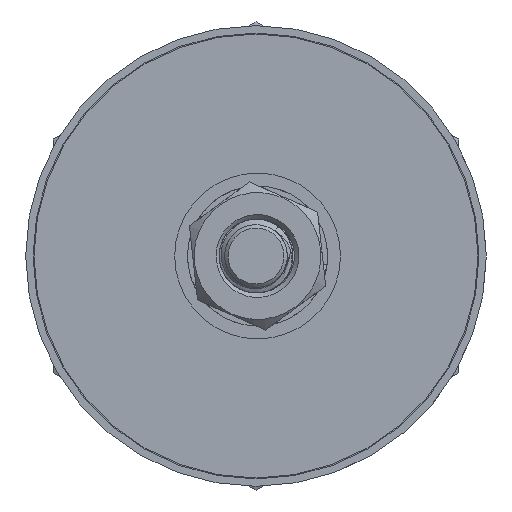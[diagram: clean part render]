
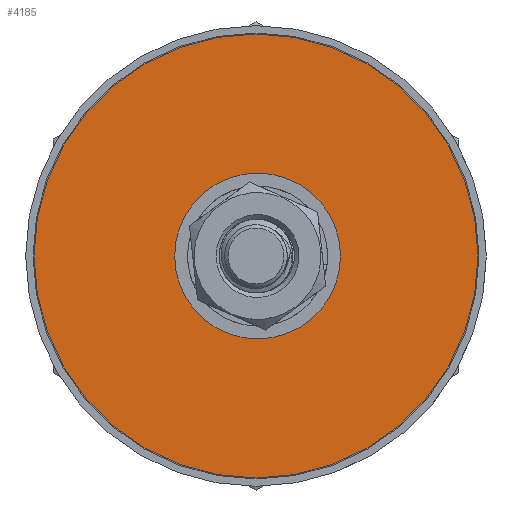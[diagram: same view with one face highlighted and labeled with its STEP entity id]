
A CAD part, front view. The second image highlights one B-rep face of the part: STEP entity #4185.
In plain terms, the highlighted planar face has unit normal (0, -1, 0).
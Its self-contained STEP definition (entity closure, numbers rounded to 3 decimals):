
#168=B_SPLINE_CURVE_WITH_KNOTS('',3,(#6592,#6593,#6594,#6595,#6596,#6597,
#6598),.UNSPECIFIED.,.F.,.F.,(4,3,4),(-0.289,-0.099,
0.),.UNSPECIFIED.);
#195=B_SPLINE_CURVE_WITH_KNOTS('',3,(#8535,#8536,#8537,#8538,#8539,#8540,
#8541),.UNSPECIFIED.,.F.,.F.,(4,3,4),(-0.29,-0.11,
0.),.UNSPECIFIED.);
#502=FACE_BOUND('',#1021,.T.);
#727=FACE_OUTER_BOUND('',#1020,.T.);
#1020=EDGE_LOOP('',(#3148));
#1021=EDGE_LOOP('',(#3149,#3150,#3151,#3152));
#1472=CIRCLE('',#4365,2.);
#1523=CIRCLE('',#4506,12.05);
#1525=CIRCLE('',#4509,1.7);
#1617=VERTEX_POINT('',#6549);
#1618=VERTEX_POINT('',#6591);
#1645=VERTEX_POINT('',#8396);
#1646=VERTEX_POINT('',#8534);
#1782=VERTEX_POINT('',#10187);
#2046=EDGE_CURVE('',#1617,#1618,#168,.T.);
#2075=EDGE_CURVE('',#1645,#1646,#195,.T.);
#2080=EDGE_CURVE('',#1646,#1617,#1472,.T.);
#2274=EDGE_CURVE('',#1782,#1782,#1523,.T.);
#2276=EDGE_CURVE('',#1618,#1645,#1525,.T.);
#3148=ORIENTED_EDGE('',*,*,#2274,.T.);
#3149=ORIENTED_EDGE('',*,*,#2080,.F.);
#3150=ORIENTED_EDGE('',*,*,#2075,.F.);
#3151=ORIENTED_EDGE('',*,*,#2276,.F.);
#3152=ORIENTED_EDGE('',*,*,#2046,.F.);
#3838=PLANE('',#4508);
#4185=ADVANCED_FACE('',(#727,#502),#3838,.F.);
#4365=AXIS2_PLACEMENT_3D('',#8697,#4737,#4738);
#4506=AXIS2_PLACEMENT_3D('',#10188,#5072,#5073);
#4508=AXIS2_PLACEMENT_3D('',#10191,#5076,#5077);
#4509=AXIS2_PLACEMENT_3D('',#10192,#5078,#5079);
#4737=DIRECTION('center_axis',(0.,-1.,0.));
#4738=DIRECTION('ref_axis',(0.9,0.,0.436));
#5072=DIRECTION('center_axis',(0.,-1.,0.));
#5073=DIRECTION('ref_axis',(-1.,0.,0.));
#5076=DIRECTION('center_axis',(0.,1.,0.));
#5077=DIRECTION('ref_axis',(1.,0.,0.));
#5078=DIRECTION('center_axis',(0.,-1.,0.));
#5079=DIRECTION('ref_axis',(-0.436,0.,0.9));
#6549=CARTESIAN_POINT('',(-1.827,-57.961,2.711));
#6591=CARTESIAN_POINT('',(0.224,-57.961,1.106));
#6592=CARTESIAN_POINT('Ctrl Pts',(-1.827,-57.961,2.711));
#6593=CARTESIAN_POINT('Ctrl Pts',(-1.735,-57.961,2.08));
#6594=CARTESIAN_POINT('Ctrl Pts',(-1.315,-57.961,1.497));
#6595=CARTESIAN_POINT('Ctrl Pts',(-0.739,-57.961,
1.24));
#6596=CARTESIAN_POINT('Ctrl Pts',(-0.442,-57.961,
1.108));
#6597=CARTESIAN_POINT('Ctrl Pts',(-0.103,-57.961,
1.063));
#6598=CARTESIAN_POINT('Ctrl Pts',(0.224,-57.961,1.109));
#8396=CARTESIAN_POINT('',(1.849,-57.961,2.533));
#8534=CARTESIAN_POINT('',(0.523,-57.961,4.774));
#8535=CARTESIAN_POINT('Ctrl Pts',(1.849,-57.961,2.533));
#8536=CARTESIAN_POINT('Ctrl Pts',(2.011,-57.961,3.109));
#8537=CARTESIAN_POINT('Ctrl Pts',(1.843,-57.961,3.763));
#8538=CARTESIAN_POINT('Ctrl Pts',(1.448,-57.961,4.205));
#8539=CARTESIAN_POINT('Ctrl Pts',(1.206,-57.961,4.476));
#8540=CARTESIAN_POINT('Ctrl Pts',(0.878,-57.961,4.67));
#8541=CARTESIAN_POINT('Ctrl Pts',(0.523,-57.961,4.771));
#8697=CARTESIAN_POINT('Origin',(0.171,-57.961,2.805));
#10187=CARTESIAN_POINT('',(12.221,-57.961,2.805));
#10188=CARTESIAN_POINT('Origin',(0.171,-57.961,2.805));
#10191=CARTESIAN_POINT('Origin',(0.171,-57.961,2.805));
#10192=CARTESIAN_POINT('Origin',(0.171,-57.961,2.805));
